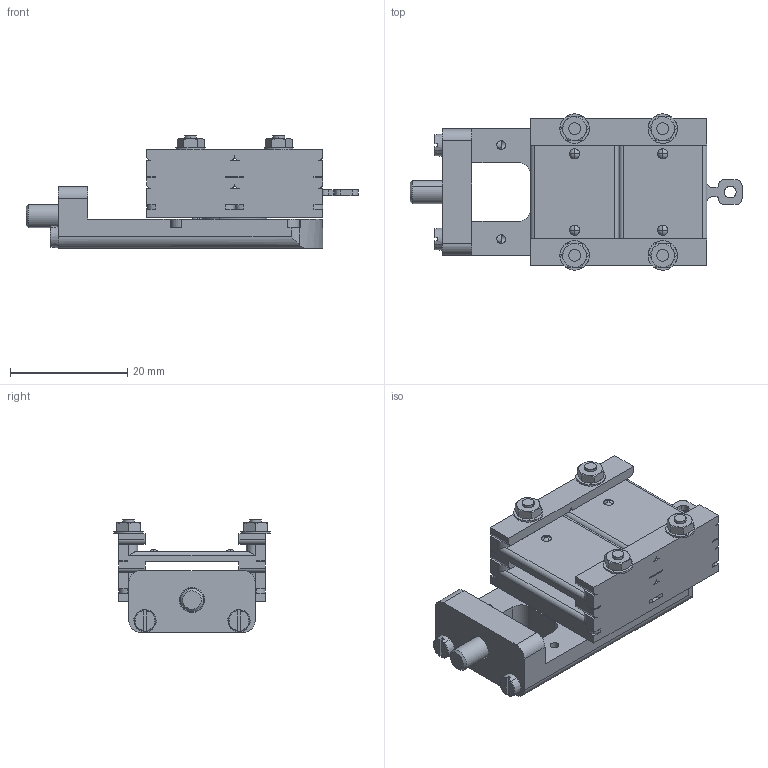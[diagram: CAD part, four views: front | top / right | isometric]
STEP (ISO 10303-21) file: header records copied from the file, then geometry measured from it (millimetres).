
FILE_DESCRIPTION(('CATIA V5 STEP Exchange'),'2;1');
FILE_NAME('W:\KONSTRUKTION\PRODUCTS\RSC\RSCFL4OM\RSCFL4OM.stp','2019-02-27T15:13:47+00:00',('none'),('none'),'CATIA Version 5 Release 20 SP 7 (IN-10)','CATIA V5 STEP AP214','none');
FILE_SCHEMA(('AUTOMOTIVE_DESIGN { 1 0 10303 214 1 1 1 1 }'));
Length unit declared in the file: millimetre
Products named in the file (1): RSCFL4OM_AllCATPart
Bounding box: 56.52 x 26.6 x 19.2 mm (x, y, z)
Volume: 10250.5 mm3; surface area: 10094.3 mm2
Topology: 2 solids, 28 shells, 1007 faces, 2644 edges, 1656 vertices
Faces by surface type: cylinder 413, plane 318, cone 125, sphere 89, torus 42, bspline 20
Entity records: 33790 total; most frequent: CARTESIAN_POINT 11107, ORIENTED_EDGE 5088, DIRECTION 3723, EDGE_CURVE 2544, AXIS2_PLACEMENT_3D 1776, VERTEX_POINT 1656, EDGE_LOOP 1144, VECTOR 1091
